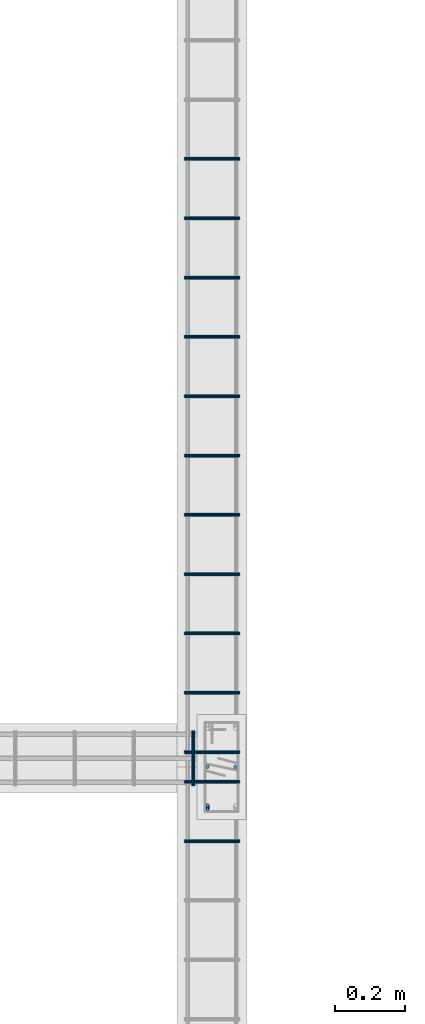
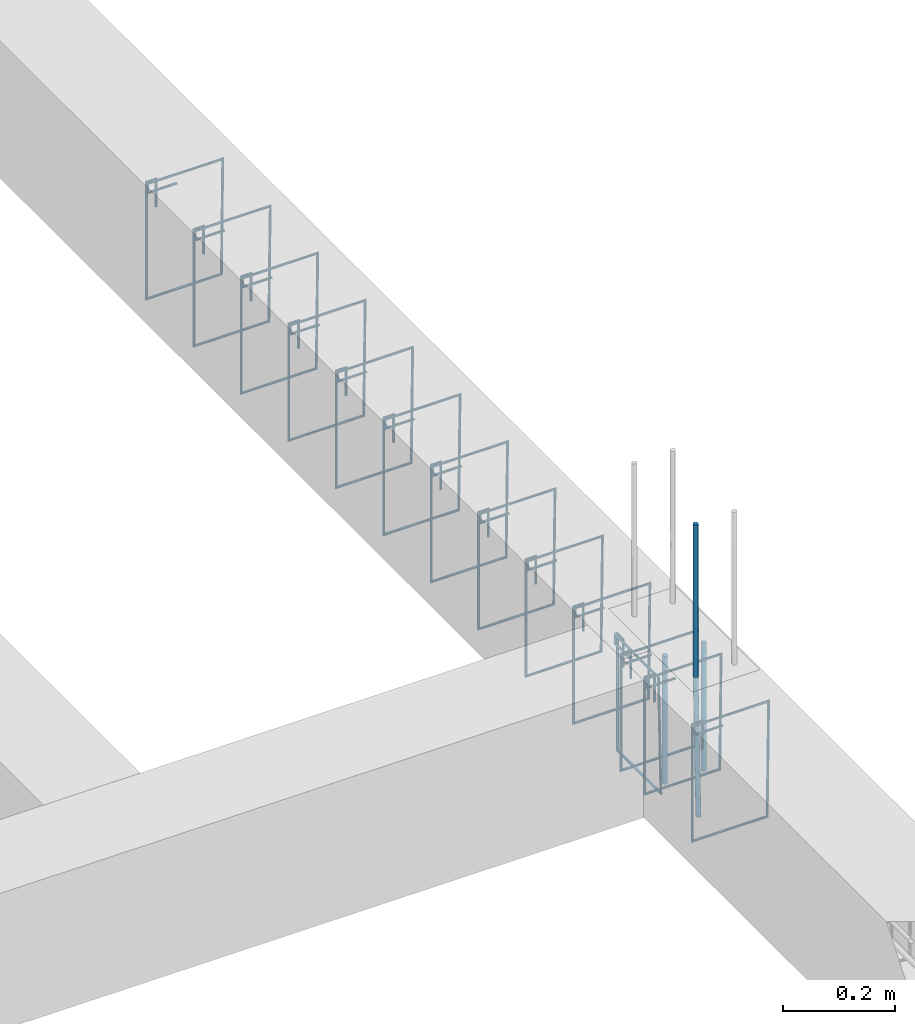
# One storey, part 35 of 150: 17 reinforcing bars.
"""IFC4 building model written with IfcOpenShell, lengths in centimetres."""

from ifc_helpers import new_model, entity, si_unit, derived_unit, frame, origin_with_axes, place, context, project, spatial, source, transform, mapped, element, save


model = new_model("IFC4")

# Units and contexts
model_context = context("Model", 3, precision=1e-05, world=origin_with_axes(), identifier="Body")
ifc_project = project(units=[si_unit("LENGTHUNIT", "METRE", prefix="CENTI"), si_unit("VOLUMEUNIT", "CUBIC_METRE"), si_unit("AREAUNIT", "SQUARE_METRE"), si_unit("POWERUNIT", "WATT"), si_unit("LUMINOUSFLUXUNIT", "LUMEN"), si_unit("ELECTRICCURRENTUNIT", "AMPERE"), si_unit("PRESSUREUNIT", "PASCAL", prefix="KILO"), si_unit("MASSUNIT", "GRAM", prefix="KILO"), si_unit("PLANEANGLEUNIT", "RADIAN"), derived_unit("VOLUMETRICFLOWRATEUNIT", [(si_unit("LENGTHUNIT", "METRE"), 3), (si_unit("TIMEUNIT", "SECOND"), -1)])], contexts=[model_context])

# Site, building, storey
site_placement = place(None, frame((-4000.0, 0.0, 0.0), z_axis=(0.0, 0.0, 1.0), x_axis=(1.0, 0.0, 0.0)))
site = spatial("IfcSite", under=ifc_project, at=site_placement, Name="PADRÃO")
building_placement = place(site_placement, frame((0.0, 0.0, -14.0)))
building = spatial("IfcBuilding", under=site, at=building_placement, Name="CRECHE PRÉ-ESCOLA TIPO 2")
placement = place(building_placement, origin_with_axes())
storey_placement = place(placement, frame((0.0, 0.0, 30.0), z_axis=(0.0, 0.0, 1.0), x_axis=(1.0, 0.0, 0.0)))
storey = spatial("IfcBuildingStorey", under=building, at=storey_placement, Name="VIGA BALDRAME", CompositionType="ELEMENT", Elevation=16.0)

# Reinforcing bars
shared_shape_1 = source(origin_with_axes(), model_context, "Body", "AdvancedSweptSolid", [
    entity("IfcSweptDiskSolid", entity("IfcCompositeCurve", [entity("IfcCompositeCurveSegment", "CONTINUOUS", True, entity("IfcPolyline", [entity("IfcCartesianPoint", [2.0, -6.0, 0.0]), entity("IfcCartesianPoint", [2.0, 0.0, 0.0])])), entity("IfcCompositeCurveSegment", "CONTINUOUS", True, entity("IfcPolyline", [entity("IfcCartesianPoint", [2.0, 0.0, 0.0]), entity("IfcCartesianPoint", [0.0, 0.0, 0.0])])), entity("IfcCompositeCurveSegment", "CONTINUOUS", True, entity("IfcPolyline", [entity("IfcCartesianPoint", [0.0, 0.0, 0.0]), entity("IfcCartesianPoint", [0.0, -25.5, 0.0])])), entity("IfcCompositeCurveSegment", "CONTINUOUS", True, entity("IfcPolyline", [entity("IfcCartesianPoint", [0.0, -25.5, 0.0]), entity("IfcCartesianPoint", [15.5, -25.5, 0.0])])), entity("IfcCompositeCurveSegment", "CONTINUOUS", True, entity("IfcPolyline", [entity("IfcCartesianPoint", [15.5, -25.5, 0.0]), entity("IfcCartesianPoint", [15.5, 0.0, 0.5])])), entity("IfcCompositeCurveSegment", "CONTINUOUS", True, entity("IfcPolyline", [entity("IfcCartesianPoint", [15.5, 0.0, 0.5]), entity("IfcCartesianPoint", [0.0, 0.0, 0.5])])), entity("IfcCompositeCurveSegment", "CONTINUOUS", True, entity("IfcPolyline", [entity("IfcCartesianPoint", [0.0, 0.0, 0.5]), entity("IfcCartesianPoint", [0.0, -2.0, 0.5])])), entity("IfcCompositeCurveSegment", "CONTINUOUS", True, entity("IfcPolyline", [entity("IfcCartesianPoint", [0.0, -2.0, 0.5]), entity("IfcCartesianPoint", [6.0, -2.0, 0.5])]))], False), 0.25),
])
for number, where, z_axis, x_axis, name in (
    (1, (1108.25, 1024.5, -2.25), (0.0, -1.0, 0.0), (1.0, 0.0, 0.0), "V182 - Estribo"),
    (2, (1108.25, 1007.5, -2.25), (0.0, -1.0, 0.0), (1.0, 0.0, 0.0), "V182 - Estribo"),
):
    element("IfcReinforcingBar", number, at=place(storey_placement, frame(where, z_axis=z_axis, x_axis=x_axis)), inside=storey, Name=name, BarLength=0.0, CrossSectionArea=1.9634954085e-05, NominalDiameter=0.5, PredefinedType="MAIN", context=model_context, shape_type="MappedRepresentation", body=[
        mapped(shared_shape_1, transform((0.0, 0.0, 0.0), scale=1.0)),
    ])
shared_shape_2 = source(origin_with_axes(), model_context, "Body", "AdvancedSweptSolid", [
    entity("IfcSweptDiskSolid", entity("IfcCompositeCurve", [entity("IfcCompositeCurveSegment", "CONTINUOUS", True, entity("IfcPolyline", [entity("IfcCartesianPoint", [2.0, -6.0, 0.0]), entity("IfcCartesianPoint", [2.0, 0.0, 0.0])])), entity("IfcCompositeCurveSegment", "CONTINUOUS", True, entity("IfcPolyline", [entity("IfcCartesianPoint", [2.0, 0.0, 0.0]), entity("IfcCartesianPoint", [0.0, 0.0, 0.0])])), entity("IfcCompositeCurveSegment", "CONTINUOUS", True, entity("IfcPolyline", [entity("IfcCartesianPoint", [0.0, 0.0, 0.0]), entity("IfcCartesianPoint", [0.0, -25.5, 0.0])])), entity("IfcCompositeCurveSegment", "CONTINUOUS", True, entity("IfcPolyline", [entity("IfcCartesianPoint", [0.0, -25.5, 0.0]), entity("IfcCartesianPoint", [15.5, -25.5, 0.0])])), entity("IfcCompositeCurveSegment", "CONTINUOUS", True, entity("IfcPolyline", [entity("IfcCartesianPoint", [15.5, -25.5, 0.0]), entity("IfcCartesianPoint", [15.5, 0.0, 0.5])])), entity("IfcCompositeCurveSegment", "CONTINUOUS", True, entity("IfcPolyline", [entity("IfcCartesianPoint", [15.5, 0.0, 0.5]), entity("IfcCartesianPoint", [0.0, 0.0, 0.5])])), entity("IfcCompositeCurveSegment", "CONTINUOUS", True, entity("IfcPolyline", [entity("IfcCartesianPoint", [0.0, 0.0, 0.5]), entity("IfcCartesianPoint", [0.0, -2.0, 0.5])])), entity("IfcCompositeCurveSegment", "CONTINUOUS", True, entity("IfcPolyline", [entity("IfcCartesianPoint", [0.0, -2.0, 0.5]), entity("IfcCartesianPoint", [6.0, -2.0, 0.5])]))], False), 0.25),
])
for number, where, z_axis, x_axis, name in (
    (3, (1108.25, 1186.0, -2.25), (0.0, -1.0, 0.0), (1.0, 0.0, 0.0), "V182 - Estribo"),
    (4, (1108.25, 1152.0, -2.25), (0.0, -1.0, 0.0), (1.0, 0.0, 0.0), "V182 - Estribo"),
    (5, (1108.25, 1135.0, -2.25), (0.0, -1.0, 0.0), (1.0, 0.0, 0.0), "V182 - Estribo"),
    (6, (1108.25, 1118.0, -2.25), (0.0, -1.0, 0.0), (1.0, 0.0, 0.0), "V182 - Estribo"),
    (7, (1108.25, 1101.0, -2.25), (0.0, -1.0, 0.0), (1.0, 0.0, 0.0), "V182 - Estribo"),
    (8, (1108.25, 1084.0, -2.25), (0.0, -1.0, 0.0), (1.0, 0.0, 0.0), "V182 - Estribo"),
    (9, (1108.25, 1203.0, -2.25), (0.0, -1.0, 0.0), (1.0, 0.0, 0.0), "V182 - Estribo"),
    (10, (1108.25, 1067.0, -2.25), (0.0, -1.0, 0.0), (1.0, 0.0, 0.0), "V182 - Estribo"),
    (11, (1108.25, 1169.0, -2.25), (0.0, -1.0, 0.0), (1.0, 0.0, 0.0), "V182 - Estribo"),
    (12, (1108.25, 1050.0, -2.25), (0.0, -1.0, 0.0), (1.0, 0.0, 0.0), "V182 - Estribo"),
    (13, (1108.25, 1033.0, -2.25), (0.0, -1.0, 0.0), (1.0, 0.0, 0.0), "V182 - Estribo"),
):
    element("IfcReinforcingBar", number, at=place(storey_placement, frame(where, z_axis=z_axis, x_axis=x_axis)), inside=storey, Name=name, BarLength=0.0, CrossSectionArea=1.9634954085e-05, NominalDiameter=0.5, PredefinedType="MAIN", context=model_context, shape_type="MappedRepresentation", body=[
        mapped(shared_shape_2, transform((0.0, 0.0, 0.0), scale=1.0)),
    ])
shared_shape_3 = source(origin_with_axes(), model_context, "Body", "AdvancedSweptSolid", [
    entity("IfcSweptDiskSolid", entity("IfcCompositeCurve", [entity("IfcCompositeCurveSegment", "CONTINUOUS", True, entity("IfcPolyline", [entity("IfcCartesianPoint", [2.0, -6.0, 0.0]), entity("IfcCartesianPoint", [2.0, 0.0, 0.0])])), entity("IfcCompositeCurveSegment", "CONTINUOUS", True, entity("IfcPolyline", [entity("IfcCartesianPoint", [2.0, 0.0, 0.0]), entity("IfcCartesianPoint", [0.0, 0.0, 0.0])])), entity("IfcCompositeCurveSegment", "CONTINUOUS", True, entity("IfcPolyline", [entity("IfcCartesianPoint", [0.0, 0.0, 0.0]), entity("IfcCartesianPoint", [0.0, -25.5, 0.0])])), entity("IfcCompositeCurveSegment", "CONTINUOUS", True, entity("IfcPolyline", [entity("IfcCartesianPoint", [0.0, -25.5, 0.0]), entity("IfcCartesianPoint", [15.5, -25.5, 0.0])])), entity("IfcCompositeCurveSegment", "CONTINUOUS", True, entity("IfcPolyline", [entity("IfcCartesianPoint", [15.5, -25.5, 0.0]), entity("IfcCartesianPoint", [15.5, 0.0, 0.5])])), entity("IfcCompositeCurveSegment", "CONTINUOUS", True, entity("IfcPolyline", [entity("IfcCartesianPoint", [15.5, 0.0, 0.5]), entity("IfcCartesianPoint", [0.0, 0.0, 0.5])])), entity("IfcCompositeCurveSegment", "CONTINUOUS", True, entity("IfcPolyline", [entity("IfcCartesianPoint", [0.0, 0.0, 0.5]), entity("IfcCartesianPoint", [0.0, -2.0, 0.5])])), entity("IfcCompositeCurveSegment", "CONTINUOUS", True, entity("IfcPolyline", [entity("IfcCartesianPoint", [0.0, -2.0, 0.5]), entity("IfcCartesianPoint", [6.0, -2.0, 0.5])]))], False), 0.25),
])
reinforcing_bar_1_placement = place(storey_placement, frame((1110.86, 1038.75, -2.25), z_axis=(-1.0, 0.0, 0.0), x_axis=(0.0, -1.0, 0.0)))
element("IfcReinforcingBar", 14, at=reinforcing_bar_1_placement, inside=storey, Name="V140 - Estribo", BarLength=0.0, CrossSectionArea=1.9634954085e-05, NominalDiameter=0.5, PredefinedType="MAIN", context=model_context, shape_type="MappedRepresentation", body=[
    mapped(shared_shape_3, transform((0.0, 0.0, 0.0), scale=1.0)),
])
for number, where, z_axis, x_axis, name in (
    (15, (1122.72, 1028.5, -2.0), (0.0, 0.0, 1.0), (1.0, 0.0, 0.0), "P119 - Longitudinal"),
    (16, (1114.72, 1028.5, -2.0), (0.0, 0.0, 1.0), (1.0, 0.0, 0.0), "P119 - Longitudinal"),
):
    element("IfcReinforcingBar", number, at=place(storey_placement, frame(where, z_axis=z_axis, x_axis=x_axis)), inside=storey, Name=name, BarLength=0.0, CrossSectionArea=7.853981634e-05, NominalDiameter=1.0, PredefinedType="MAIN", context=model_context, shape_type="AdvancedSweptSolid", body=[
        entity("IfcSweptDiskSolid", entity("IfcCompositeCurve", [entity("IfcCompositeCurveSegment", "CONTINUOUS", True, entity("IfcPolyline", [entity("IfcCartesianPoint", [0.0, 0.0, -28.0]), entity("IfcCartesianPoint", [0.0, 0.0, 0.0])]))], False), 0.5),
    ])
reinforcing_bar_2_placement = place(storey_placement, frame((1114.72, 1017.00013877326, 33.3573001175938), z_axis=(0.0, 0.0, 1.0), x_axis=(1.0, 0.0, 0.0)))
element("IfcReinforcingBar", 17, at=reinforcing_bar_2_placement, inside=storey, Name="P119 - Longitudinal", BarLength=0.0, CrossSectionArea=7.853981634e-05, NominalDiameter=1.0, PredefinedType="MAIN", context=model_context, shape_type="AdvancedSweptSolid", body=[
    entity("IfcSweptDiskSolid", entity("IfcCompositeCurve", [entity("IfcCompositeCurveSegment", "CONTINUOUS", True, entity("IfcPolyline", [entity("IfcCartesianPoint", [0.0, -0.50013877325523, -63.3573001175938]), entity("IfcCartesianPoint", [0.0, 0.49986122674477, -33.3573001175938])])), entity("IfcCompositeCurveSegment", "CONTINUOUS", True, entity("IfcPolyline", [entity("IfcCartesianPoint", [0.0, 0.49986122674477, -33.3573001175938]), entity("IfcCartesianPoint", [0.0, 0.49986122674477, 0.0])]))], False), 0.5),
])

save(model, "model.ifc")
